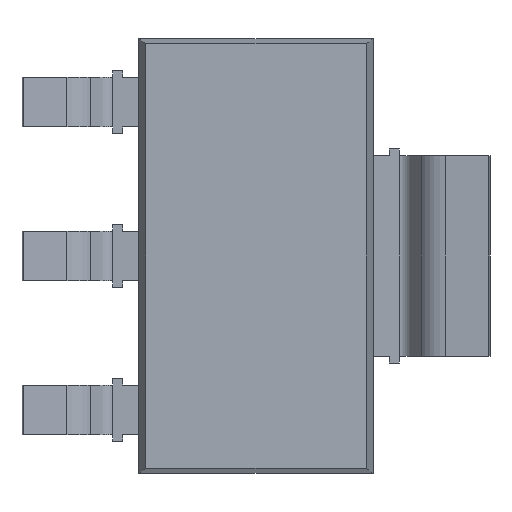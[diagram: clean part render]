
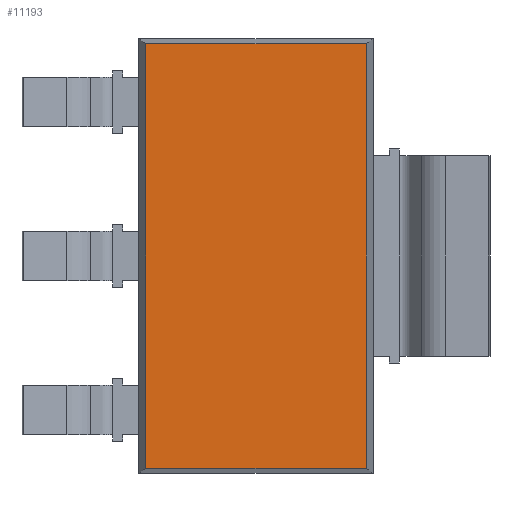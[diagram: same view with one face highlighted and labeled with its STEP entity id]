
A CAD part, front view. The second image highlights one B-rep face of the part: STEP entity #11193.
In plain terms, the highlighted planar face has unit normal (0, -1, 0).
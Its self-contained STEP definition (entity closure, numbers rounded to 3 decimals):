
#1697=FACE_OUTER_BOUND('',#2315,.T.);
#2315=EDGE_LOOP('',(#10044,#10045,#10046,#10047));
#3149=LINE('',#22178,#4070);
#3152=LINE('',#22184,#4073);
#3153=LINE('',#22186,#4074);
#3154=LINE('',#22187,#4075);
#4070=VECTOR('',#12641,1000.);
#4073=VECTOR('',#12646,1000.);
#4074=VECTOR('',#12647,1000.);
#4075=VECTOR('',#12648,1000.);
#5269=VERTEX_POINT('',#22174);
#5271=VERTEX_POINT('',#22177);
#5273=VERTEX_POINT('',#22183);
#5274=VERTEX_POINT('',#22185);
#6887=EDGE_CURVE('',#5271,#5269,#3149,.T.);
#6890=EDGE_CURVE('',#5273,#5269,#3152,.T.);
#6891=EDGE_CURVE('',#5274,#5273,#3153,.T.);
#6892=EDGE_CURVE('',#5274,#5271,#3154,.T.);
#10044=ORIENTED_EDGE('',*,*,#6890,.F.);
#10045=ORIENTED_EDGE('',*,*,#6891,.F.);
#10046=ORIENTED_EDGE('',*,*,#6892,.T.);
#10047=ORIENTED_EDGE('',*,*,#6887,.T.);
#10605=PLANE('',#11454);
#11193=ADVANCED_FACE('',(#1697),#10605,.F.);
#11454=AXIS2_PLACEMENT_3D('',#22182,#12644,#12645);
#12641=DIRECTION('',(0.,0.,-1.));
#12644=DIRECTION('center_axis',(0.,1.,0.));
#12645=DIRECTION('ref_axis',(-1.,0.,0.));
#12646=DIRECTION('',(-1.,0.,0.));
#12647=DIRECTION('',(0.,0.,-1.));
#12648=DIRECTION('',(-1.,0.,0.));
#22174=CARTESIAN_POINT('',(-1.648,0.11,-3.172));
#22177=CARTESIAN_POINT('',(-1.648,0.11,3.172));
#22178=CARTESIAN_POINT('',(-1.648,0.11,3.25));
#22182=CARTESIAN_POINT('Origin',(-1.648,0.11,3.25));
#22183=CARTESIAN_POINT('',(1.648,0.11,-3.172));
#22184=CARTESIAN_POINT('',(1.75,0.11,-3.172));
#22185=CARTESIAN_POINT('',(1.648,0.11,3.172));
#22186=CARTESIAN_POINT('',(1.648,0.11,3.25));
#22187=CARTESIAN_POINT('',(1.75,0.11,3.172));
